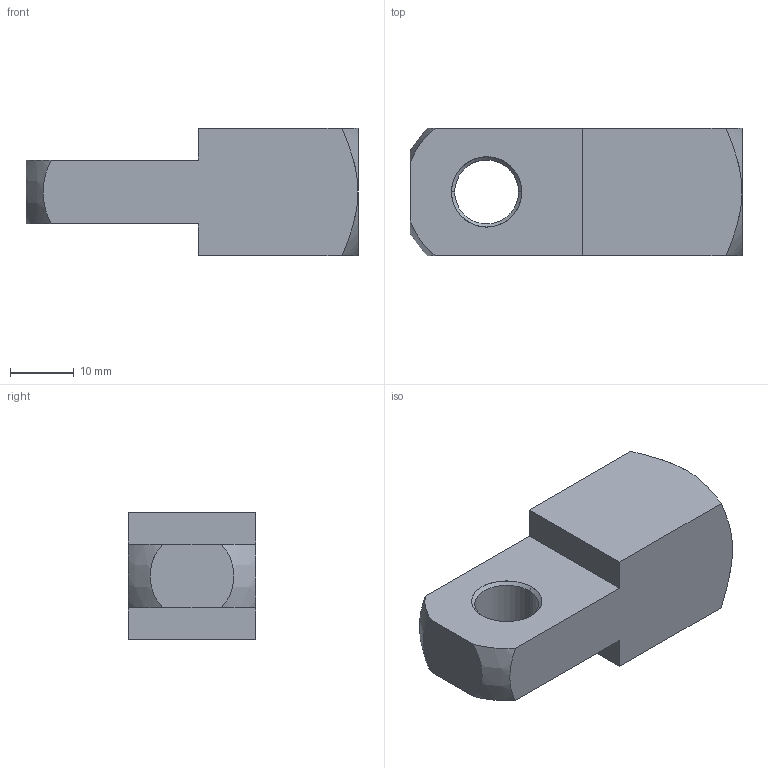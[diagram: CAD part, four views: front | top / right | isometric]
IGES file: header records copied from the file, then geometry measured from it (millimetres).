
Start section: SolidWorks IGES file using analytic representation for surfaces
Global section: file name: C:\Documents and Settings\IANO\My Documents\Wix and Auto CAD Work\CAD Models\Parametric Models\Wix Models\60000\65652_v2\65652_v2_IGES\65652.W0010.igs; native system: SolidWorks 2009; preprocessor: SolidWorks 2009; author: IANO; date: 140122.120858; units: millimetre
Bounding box: 52 x 20 x 20 mm (x, y, z)
Surface area: 5119.4 mm2 (no closed solid volume)
Topology: 0 solids, 0 shells, 31 faces, 464 edges, 462 vertices
Faces by surface type: revolution 18, bspline 13
